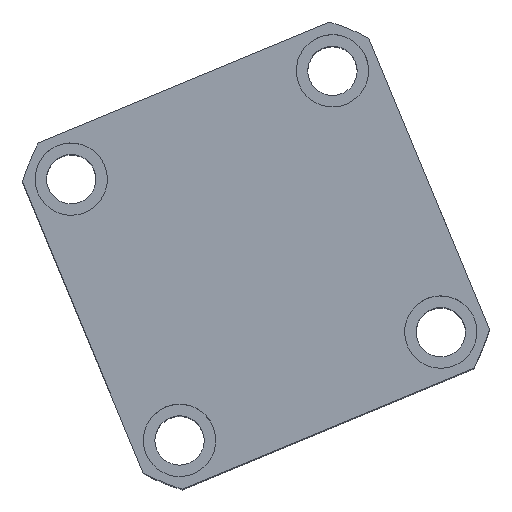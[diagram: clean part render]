
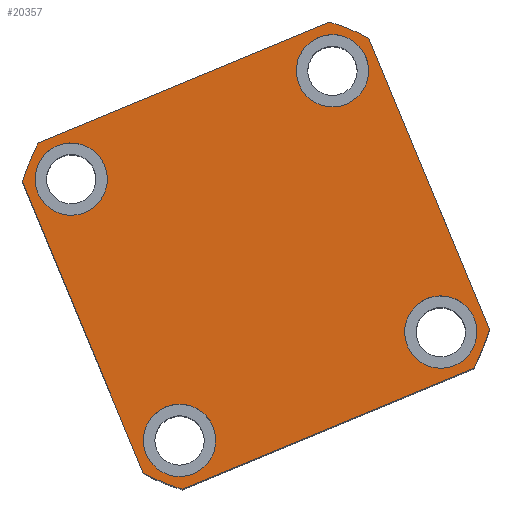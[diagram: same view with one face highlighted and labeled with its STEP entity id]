
A CAD part, top view. The second image highlights one B-rep face of the part: STEP entity #20357.
In plain terms, the highlighted planar face has unit normal (0, 0, 1) as drawn and (0, 0, -1) by its records, which use the part's own axes.
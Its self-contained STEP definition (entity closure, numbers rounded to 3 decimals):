
#161 = CIRCLE ( 'NONE', #181, 11. ) ;
#181 = AXIS2_PLACEMENT_3D ( 'NONE', #5400, #16408, #6986 ) ;
#308 = CARTESIAN_POINT ( 'NONE',  ( -32., -43., 0. ) ) ;
#339 = CARTESIAN_POINT ( 'NONE',  ( -47.971, -57., 0. ) ) ;
#493 = ORIENTED_EDGE ( 'NONE', *, *, #9188, .F. ) ;
#512 = CARTESIAN_POINT ( 'NONE',  ( -57., 57., 0. ) ) ;
#635 = DIRECTION ( 'NONE',  ( 0., -1., 0. ) ) ;
#744 = CARTESIAN_POINT ( 'NONE',  ( 0., 0., 0. ) ) ;
#951 = AXIS2_PLACEMENT_3D ( 'NONE', #8191, #19158, #9764 ) ;
#1004 = EDGE_CURVE ( 'NONE', #14179, #13380, #15844, .T. ) ;
#1150 = ORIENTED_EDGE ( 'NONE', *, *, #4794, .F. ) ;
#1213 = DIRECTION ( 'NONE',  ( -1., 0., 0. ) ) ;
#1273 = CIRCLE ( 'NONE', #11607, 11. ) ;
#1399 = CARTESIAN_POINT ( 'NONE',  ( 32., 43., 0. ) ) ;
#1477 = DIRECTION ( 'NONE',  ( 0., 0., 1. ) ) ;
#1596 = VERTEX_POINT ( 'NONE', #16666 ) ;
#1754 = FACE_BOUND ( 'NONE', #6246, .T. ) ;
#1768 = CARTESIAN_POINT ( 'NONE',  ( -47.971, 57., 0. ) ) ;
#2002 = ORIENTED_EDGE ( 'NONE', *, *, #6207, .F. ) ;
#2368 = DIRECTION ( 'NONE',  ( 1., 0., 0. ) ) ;
#2744 = ORIENTED_EDGE ( 'NONE', *, *, #5522, .F. ) ;
#3083 = EDGE_CURVE ( 'NONE', #7044, #8400, #14065, .T. ) ;
#3383 = CIRCLE ( 'NONE', #7138, 11. ) ;
#3485 = ORIENTED_EDGE ( 'NONE', *, *, #16596, .F. ) ;
#3521 = ORIENTED_EDGE ( 'NONE', *, *, #8363, .F. ) ;
#3955 = EDGE_LOOP ( 'NONE', ( #4705, #15784 ) ) ;
#4035 = DIRECTION ( 'NONE',  ( 0., 0., -1. ) ) ;
#4141 = CIRCLE ( 'NONE', #17680, 74.5 ) ;
#4522 = ORIENTED_EDGE ( 'NONE', *, *, #12492, .F. ) ;
#4705 = ORIENTED_EDGE ( 'NONE', *, *, #9534, .F. ) ;
#4794 = EDGE_CURVE ( 'NONE', #9150, #6090, #15762, .T. ) ;
#4898 = CARTESIAN_POINT ( 'NONE',  ( -43., -43., 0. ) ) ;
#4954 = EDGE_LOOP ( 'NONE', ( #1150, #4522 ) ) ;
#5164 = VECTOR ( 'NONE', #635, 1000. ) ;
#5199 = AXIS2_PLACEMENT_3D ( 'NONE', #744, #11841, #2368 ) ;
#5400 = CARTESIAN_POINT ( 'NONE',  ( 43., -43., 0. ) ) ;
#5480 = CARTESIAN_POINT ( 'NONE',  ( 47.971, -57., 0. ) ) ;
#5522 = EDGE_CURVE ( 'NONE', #9862, #13630, #16996, .T. ) ;
#5562 = AXIS2_PLACEMENT_3D ( 'NONE', #7380, #18386, #8984 ) ;
#5592 = EDGE_CURVE ( 'NONE', #6271, #11342, #161, .T. ) ;
#5794 = EDGE_CURVE ( 'NONE', #12835, #10847, #12065, .T. ) ;
#6020 = FACE_BOUND ( 'NONE', #8924, .T. ) ;
#6090 = VERTEX_POINT ( 'NONE', #14712 ) ;
#6207 = EDGE_CURVE ( 'NONE', #1596, #19955, #9590, .T. ) ;
#6246 = EDGE_LOOP ( 'NONE', ( #10620, #13326 ) ) ;
#6271 = VERTEX_POINT ( 'NONE', #10309 ) ;
#6275 = LINE ( 'NONE', #18059, #14146 ) ;
#6492 = DIRECTION ( 'NONE',  ( -1., 0., 0. ) ) ;
#6700 = DIRECTION ( 'NONE',  ( 0., 0., -1. ) ) ;
#6795 = AXIS2_PLACEMENT_3D ( 'NONE', #4898, #15902, #6492 ) ;
#6986 = DIRECTION ( 'NONE',  ( -1., 0., 0. ) ) ;
#7044 = VERTEX_POINT ( 'NONE', #5480 ) ;
#7138 = AXIS2_PLACEMENT_3D ( 'NONE', #16131, #6700, #17702 ) ;
#7258 = VECTOR ( 'NONE', #11595, 1000. ) ;
#7380 = CARTESIAN_POINT ( 'NONE',  ( 0., 0., 0. ) ) ;
#7411 = AXIS2_PLACEMENT_3D ( 'NONE', #8570, #19542, #10149 ) ;
#7669 = CIRCLE ( 'NONE', #951, 11. ) ;
#7689 = CARTESIAN_POINT ( 'NONE',  ( -57., -47.971, 0. ) ) ;
#8077 = DIRECTION ( 'NONE',  ( 0., 0., 1. ) ) ;
#8191 = CARTESIAN_POINT ( 'NONE',  ( 43., 43., 0. ) ) ;
#8363 = EDGE_CURVE ( 'NONE', #19955, #1596, #3383, .T. ) ;
#8400 = VERTEX_POINT ( 'NONE', #17502 ) ;
#8473 = LINE ( 'NONE', #18153, #15840 ) ;
#8503 = CARTESIAN_POINT ( 'NONE',  ( 0., 0., 0. ) ) ;
#8524 = CARTESIAN_POINT ( 'NONE',  ( 43., 43., 0. ) ) ;
#8570 = CARTESIAN_POINT ( 'NONE',  ( -43., -43., 0. ) ) ;
#8691 = ORIENTED_EDGE ( 'NONE', *, *, #5794, .F. ) ;
#8924 = EDGE_LOOP ( 'NONE', ( #3521, #2002 ) ) ;
#8984 = DIRECTION ( 'NONE',  ( 1., 0., 0. ) ) ;
#9037 = CARTESIAN_POINT ( 'NONE',  ( -54., 43., 0. ) ) ;
#9150 = VERTEX_POINT ( 'NONE', #1399 ) ;
#9188 = EDGE_CURVE ( 'NONE', #11362, #17556, #4141, .T. ) ;
#9465 = CARTESIAN_POINT ( 'NONE',  ( 47.971, 57., 0. ) ) ;
#9534 = EDGE_CURVE ( 'NONE', #13380, #14179, #17913, .T. ) ;
#9590 = CIRCLE ( 'NONE', #16095, 11. ) ;
#9764 = DIRECTION ( 'NONE',  ( -1., 0., 0. ) ) ;
#9862 = VERTEX_POINT ( 'NONE', #7689 ) ;
#10069 = DIRECTION ( 'NONE',  ( 1., 0., 0. ) ) ;
#10088 = DIRECTION ( 'NONE',  ( -1., 0., 0. ) ) ;
#10149 = DIRECTION ( 'NONE',  ( -1., 0., 0. ) ) ;
#10309 = CARTESIAN_POINT ( 'NONE',  ( 32., -43., 0. ) ) ;
#10464 = LINE ( 'NONE', #512, #7258 ) ;
#10620 = ORIENTED_EDGE ( 'NONE', *, *, #5592, .F. ) ;
#10688 = FACE_BOUND ( 'NONE', #3955, .T. ) ;
#10727 = DIRECTION ( 'NONE',  ( 0., 0., -1. ) ) ;
#10847 = VERTEX_POINT ( 'NONE', #11325 ) ;
#10984 = CARTESIAN_POINT ( 'NONE',  ( 0., 0., 0. ) ) ;
#11325 = CARTESIAN_POINT ( 'NONE',  ( -57., 47.971, 0. ) ) ;
#11342 = VERTEX_POINT ( 'NONE', #20217 ) ;
#11362 = VERTEX_POINT ( 'NONE', #12212 ) ;
#11595 = DIRECTION ( 'NONE',  ( -1., 0., 0. ) ) ;
#11607 = AXIS2_PLACEMENT_3D ( 'NONE', #20110, #10727, #1213 ) ;
#11656 = ORIENTED_EDGE ( 'NONE', *, *, #18148, .F. ) ;
#11744 = CARTESIAN_POINT ( 'NONE',  ( -57., 57., 0. ) ) ;
#11841 = DIRECTION ( 'NONE',  ( 0., 0., 1. ) ) ;
#12065 = CIRCLE ( 'NONE', #5562, 74.5 ) ;
#12212 = CARTESIAN_POINT ( 'NONE',  ( 57., 47.971, 0. ) ) ;
#12492 = EDGE_CURVE ( 'NONE', #6090, #9150, #7669, .T. ) ;
#12546 = DIRECTION ( 'NONE',  ( 1., 0., 0. ) ) ;
#12835 = VERTEX_POINT ( 'NONE', #1768 ) ;
#13326 = ORIENTED_EDGE ( 'NONE', *, *, #16142, .F. ) ;
#13374 = ORIENTED_EDGE ( 'NONE', *, *, #16641, .F. ) ;
#13380 = VERTEX_POINT ( 'NONE', #15763 ) ;
#13474 = CARTESIAN_POINT ( 'NONE',  ( -43., 43., 0. ) ) ;
#13544 = PLANE ( 'NONE',  #13804 ) ;
#13630 = VERTEX_POINT ( 'NONE', #339 ) ;
#13804 = AXIS2_PLACEMENT_3D ( 'NONE', #17493, #8077, #19056 ) ;
#14065 = CIRCLE ( 'NONE', #5199, 74.5 ) ;
#14146 = VECTOR ( 'NONE', #17850, 1000. ) ;
#14179 = VERTEX_POINT ( 'NONE', #308 ) ;
#14712 = CARTESIAN_POINT ( 'NONE',  ( 54., 43., 0. ) ) ;
#15060 = DIRECTION ( 'NONE',  ( -1., 0., 0. ) ) ;
#15388 = EDGE_CURVE ( 'NONE', #10847, #9862, #18206, .T. ) ;
#15762 = CIRCLE ( 'NONE', #16885, 11. ) ;
#15763 = CARTESIAN_POINT ( 'NONE',  ( -54., -43., 0. ) ) ;
#15784 = ORIENTED_EDGE ( 'NONE', *, *, #1004, .F. ) ;
#15840 = VECTOR ( 'NONE', #19719, 1000. ) ;
#15844 = CIRCLE ( 'NONE', #6795, 11. ) ;
#15902 = DIRECTION ( 'NONE',  ( 0., 0., -1. ) ) ;
#16095 = AXIS2_PLACEMENT_3D ( 'NONE', #13474, #4035, #15060 ) ;
#16131 = CARTESIAN_POINT ( 'NONE',  ( -43., 43., 0. ) ) ;
#16142 = EDGE_CURVE ( 'NONE', #11342, #6271, #1273, .T. ) ;
#16408 = DIRECTION ( 'NONE',  ( 0., 0., -1. ) ) ;
#16536 = EDGE_LOOP ( 'NONE', ( #493, #11656, #18531, #13374, #2744, #18028, #8691, #3485 ) ) ;
#16596 = EDGE_CURVE ( 'NONE', #17556, #12835, #10464, .T. ) ;
#16641 = EDGE_CURVE ( 'NONE', #13630, #7044, #6275, .T. ) ;
#16666 = CARTESIAN_POINT ( 'NONE',  ( -32., 43., 0. ) ) ;
#16885 = AXIS2_PLACEMENT_3D ( 'NONE', #8524, #19491, #10088 ) ;
#16996 = CIRCLE ( 'NONE', #19614, 74.5 ) ;
#17493 = CARTESIAN_POINT ( 'NONE',  ( 0., 0., 0. ) ) ;
#17502 = CARTESIAN_POINT ( 'NONE',  ( 57., -47.971, 0. ) ) ;
#17556 = VERTEX_POINT ( 'NONE', #9465 ) ;
#17680 = AXIS2_PLACEMENT_3D ( 'NONE', #10984, #1477, #12546 ) ;
#17702 = DIRECTION ( 'NONE',  ( -1., 0., 0. ) ) ;
#17850 = DIRECTION ( 'NONE',  ( 1., 0., 0. ) ) ;
#17913 = CIRCLE ( 'NONE', #7411, 11. ) ;
#18028 = ORIENTED_EDGE ( 'NONE', *, *, #15388, .F. ) ;
#18058 = FACE_OUTER_BOUND ( 'NONE', #16536, .T. ) ;
#18059 = CARTESIAN_POINT ( 'NONE',  ( -57., -57., 0. ) ) ;
#18148 = EDGE_CURVE ( 'NONE', #8400, #11362, #8473, .T. ) ;
#18153 = CARTESIAN_POINT ( 'NONE',  ( 57., 57., 0. ) ) ;
#18206 = LINE ( 'NONE', #11744, #5164 ) ;
#18386 = DIRECTION ( 'NONE',  ( 0., 0., 1. ) ) ;
#18531 = ORIENTED_EDGE ( 'NONE', *, *, #3083, .F. ) ;
#18551 = FACE_BOUND ( 'NONE', #4954, .T. ) ;
#19056 = DIRECTION ( 'NONE',  ( 1., 0., 0. ) ) ;
#19158 = DIRECTION ( 'NONE',  ( 0., 0., -1. ) ) ;
#19467 = DIRECTION ( 'NONE',  ( 0., 0., 1. ) ) ;
#19491 = DIRECTION ( 'NONE',  ( 0., 0., -1. ) ) ;
#19542 = DIRECTION ( 'NONE',  ( 0., 0., -1. ) ) ;
#19614 = AXIS2_PLACEMENT_3D ( 'NONE', #8503, #19467, #10069 ) ;
#19719 = DIRECTION ( 'NONE',  ( 0., 1., 0. ) ) ;
#19955 = VERTEX_POINT ( 'NONE', #9037 ) ;
#20110 = CARTESIAN_POINT ( 'NONE',  ( 43., -43., 0. ) ) ;
#20217 = CARTESIAN_POINT ( 'NONE',  ( 54., -43., 0. ) ) ;
#20357 = ADVANCED_FACE ( 'NONE', ( #10688, #1754, #18551, #6020, #18058 ), #13544, .F. ) ;
